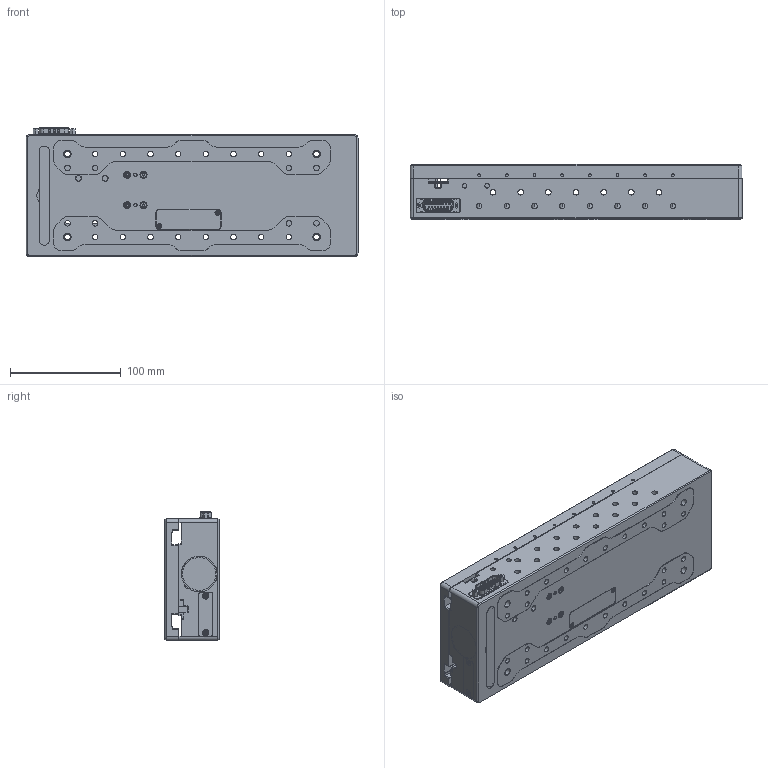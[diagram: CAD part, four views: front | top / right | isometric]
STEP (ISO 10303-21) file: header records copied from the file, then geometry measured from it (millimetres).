
FILE_DESCRIPTION (( 'STEP AP214' ), '1' );
FILE_NAME ('LS-100-HLE ASSM - LINEAR STAGE - 100mm - HEAVY-LIFT, ENCODED (CATALOG MODEL).STEP', '2025-04-24T22:43:54', ( '' ), ( '' ), 'SwSTEP 2.0', 'SolidWorks 2023', '' );
FILE_SCHEMA (( 'AUTOMOTIVE_DESIGN' ));
Length unit declared in the file: inch
Products named in the file (1): LS-100-HLE ASSM - LINEAR STAGE - 100mm - HEAVY-LIFT, ENCODED (CATALOG MODEL)
Bounding box: 299.97 x 49.99 x 116.49 mm (x, y, z)
Surface area: 183036.3 mm2 (no closed solid volume)
Topology: 0 solids, 67 shells, 1514 faces, 5220 edges, 3544 vertices
Faces by surface type: cylinder 612, plane 609, cone 260, torus 33
Entity records: 77150 total; most frequent: CARTESIAN_POINT 12412, DIRECTION 9897, ORIENTED_EDGE 8245, EDGE_CURVE 5164, AXIS2_PLACEMENT_3D 3675, VERTEX_POINT 3544, VECTOR 2547, LINE 2547
